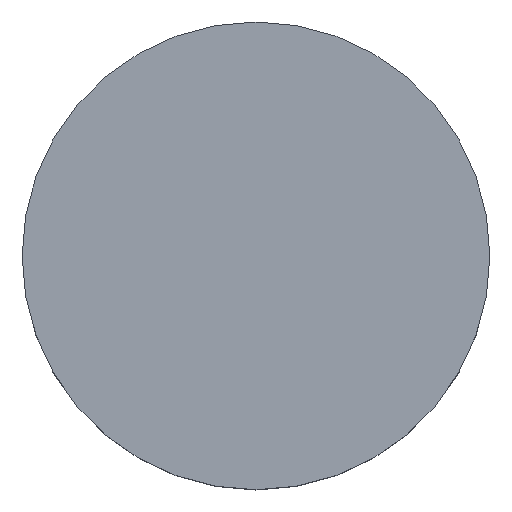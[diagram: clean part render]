
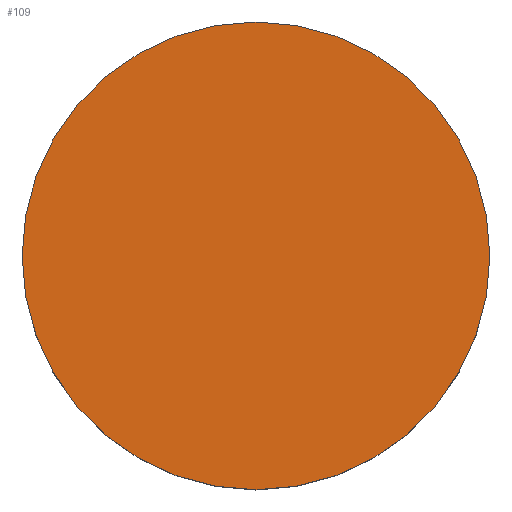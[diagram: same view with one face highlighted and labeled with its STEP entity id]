
A CAD part, top view. The second image highlights one B-rep face of the part: STEP entity #109.
In plain terms, the highlighted planar face has unit normal (0, 0, 1).
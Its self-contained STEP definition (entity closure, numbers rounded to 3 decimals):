
#24 = VERTEX_POINT('',#25);
#25 = CARTESIAN_POINT('',(34.,0.,11.5));
#32 = CYLINDRICAL_SURFACE('',#33,34.);
#33 = AXIS2_PLACEMENT_3D('',#34,#35,#36);
#34 = CARTESIAN_POINT('',(0.,0.,-8.));
#35 = DIRECTION('',(-0.,-0.,-1.));
#36 = DIRECTION('',(1.,0.,0.));
#51 = EDGE_CURVE('',#24,#24,#52,.T.);
#52 = SURFACE_CURVE('',#53,(#58,#65),.PCURVE_S1.);
#53 = CIRCLE('',#54,34.);
#54 = AXIS2_PLACEMENT_3D('',#55,#56,#57);
#55 = CARTESIAN_POINT('',(0.,0.,11.5));
#56 = DIRECTION('',(0.,0.,1.));
#57 = DIRECTION('',(1.,0.,0.));
#58 = PCURVE('',#32,#59);
#59 = DEFINITIONAL_REPRESENTATION('',(#60),#64);
#60 = LINE('',#61,#62);
#61 = CARTESIAN_POINT('',(-0.,-19.5));
#62 = VECTOR('',#63,1.);
#63 = DIRECTION('',(-1.,0.));
#64 = ( GEOMETRIC_REPRESENTATION_CONTEXT(2) 
PARAMETRIC_REPRESENTATION_CONTEXT() REPRESENTATION_CONTEXT('2D SPACE',''
  ) );
#65 = PCURVE('',#66,#71);
#66 = PLANE('',#67);
#67 = AXIS2_PLACEMENT_3D('',#68,#69,#70);
#68 = CARTESIAN_POINT('',(0.,0.,11.5));
#69 = DIRECTION('',(0.,0.,1.));
#70 = DIRECTION('',(1.,0.,-0.));
#71 = DEFINITIONAL_REPRESENTATION('',(#72),#76);
#72 = CIRCLE('',#73,34.);
#73 = AXIS2_PLACEMENT_2D('',#74,#75);
#74 = CARTESIAN_POINT('',(0.,0.));
#75 = DIRECTION('',(1.,0.));
#76 = ( GEOMETRIC_REPRESENTATION_CONTEXT(2) 
PARAMETRIC_REPRESENTATION_CONTEXT() REPRESENTATION_CONTEXT('2D SPACE',''
  ) );
#109 = ADVANCED_FACE('',(#110),#66,.T.);
#110 = FACE_BOUND('',#111,.T.);
#111 = EDGE_LOOP('',(#112));
#112 = ORIENTED_EDGE('',*,*,#51,.T.);
